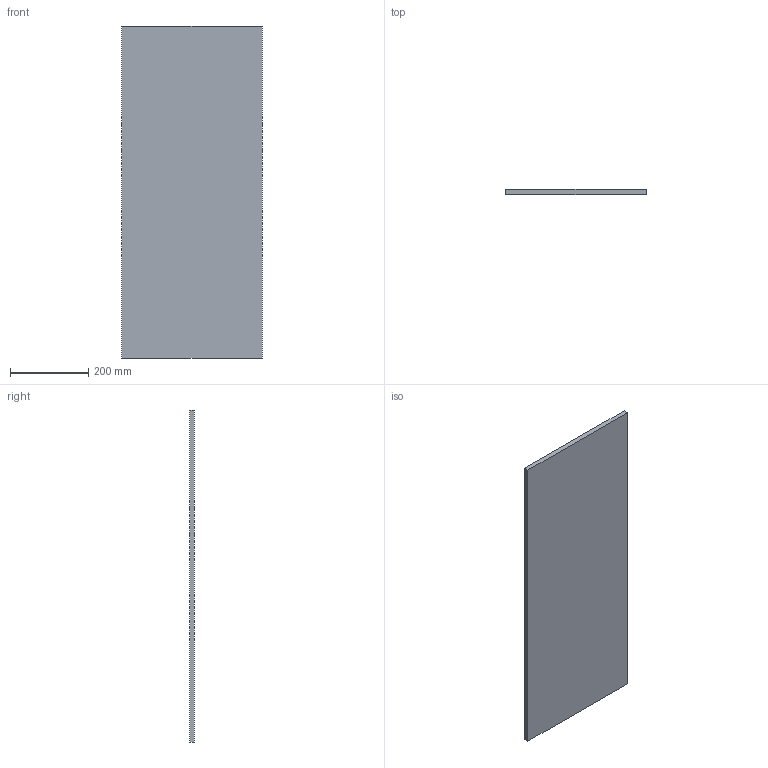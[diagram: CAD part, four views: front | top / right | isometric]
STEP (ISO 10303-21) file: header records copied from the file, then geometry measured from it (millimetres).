
FILE_DESCRIPTION(('Open CASCADE Model'),'2;1');
FILE_NAME('Open CASCADE Shape Model','2026-10-16T18:52:00',('Author'),( 'Open CASCADE'),'Open CASCADE STEP processor 7.8','Open CASCADE 7.8' ,'Unknown');
FILE_SCHEMA(('AUTOMOTIVE_DESIGN { 1 0 10303 214 1 1 1 1 }'));
Length unit declared in the file: millimetre
Products named in the file (1): Open CASCADE STEP translator 7.8 60
Bounding box: 360 x 12 x 850 mm (x, y, z)
Volume: 3672000 mm3; surface area: 641040 mm2
Topology: 1 solids, 1 shells, 6 faces, 12 edges, 8 vertices
Faces by surface type: plane 6
Entity records: 322 total; most frequent: CARTESIAN_POINT 51, DIRECTION 50, LINE 36, VECTOR 36, ORIENTED_EDGE 24, PCURVE 24, DEFINITIONAL_REPRESENTATION 24, EDGE_CURVE 12
